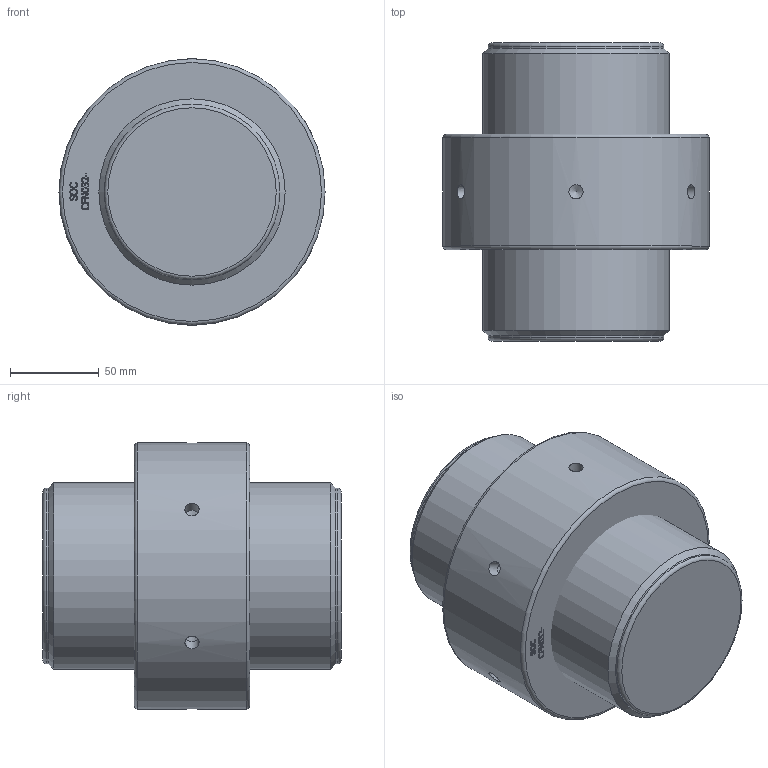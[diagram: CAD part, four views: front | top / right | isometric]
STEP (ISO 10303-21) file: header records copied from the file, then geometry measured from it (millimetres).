
FILE_DESCRIPTION(/* description */ (''),/* implementation_level */ '2;1');
FILE_NAME(/* name */ 'F:\Clienti LS\Redaelli\CYT\CYT\ARRNGEMENT\CYT032 61 061 0.stp',/* time_stamp */ '2021-05-09T08:43:23+02:00',/* author */ ('ranca'),/* organization */ (''),/* preprocessor_version */ 'ST-DEVELOPER v16.13',/* originating_system */ 'Autodesk Inventor 2018',/* authorisation */ '');
FILE_SCHEMA (('AUTOMOTIVE_DESIGN { 1 0 10303 214 3 1 1 }'));
Length unit declared in the file: millimetre
Products named in the file (3): CYT012-61-061-0; CYT012-61-061-0_1; CYT012-61-061-0_DADO
Assembly tree (2 placements, depth 2):
  CYT012-61-061-0
    CYT012-61-061-0_1
    CYT012-61-061-0_DADO
Bounding box: 150 x 168 x 150 mm (x, y, z)
Volume: 2073321.3 mm3; surface area: 141967.4 mm2
Topology: 2 solids, 2 shells, 360 faces, 995 edges, 663 vertices
Faces by surface type: bspline 208, plane 129, cylinder 11, cone 8, torus 4
Full cylindrical faces by diameter (mm): 8 x6, 99 x2, 100.67 x1, 105 x1, 150 x1
Entity records: 12560 total; most frequent: CARTESIAN_POINT 4888, ORIENTED_EDGE 1918, EDGE_CURVE 959, DIRECTION 865, VERTEX_POINT 650, LINE 511, VECTOR 511, B_SPLINE_CURVE_WITH_KNOTS 428
